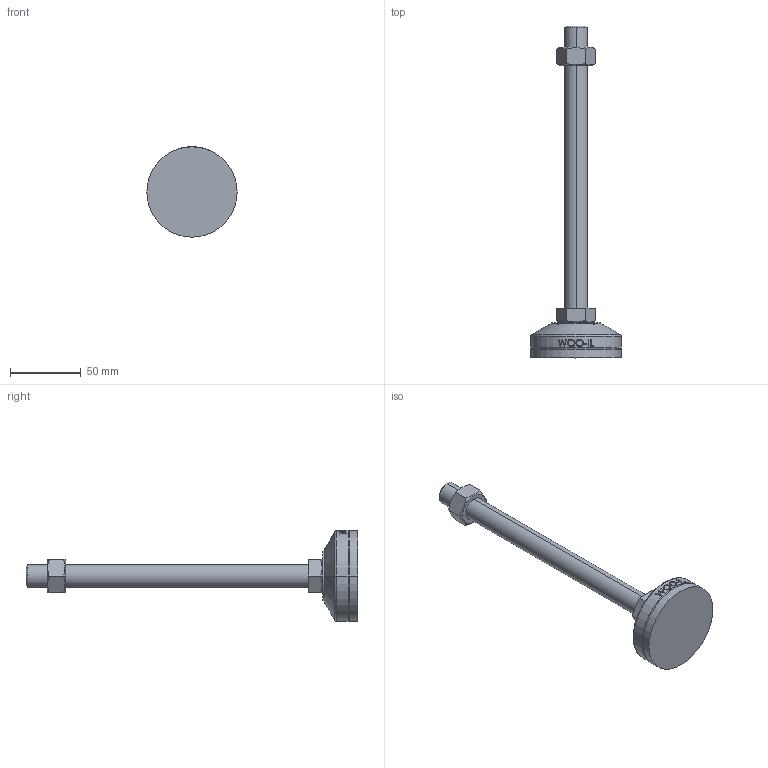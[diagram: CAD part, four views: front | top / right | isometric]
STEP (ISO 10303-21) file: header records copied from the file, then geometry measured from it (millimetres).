
FILE_DESCRIPTION (( 'STEP AP214' ), '1' );
FILE_NAME ('MFR64-M16-200.step', '2021-01-13T05:36:55', ( '' ), ( '' ), 'SwSTEP 2.0', 'SolidWorks 2019', '' );
FILE_SCHEMA (( 'AUTOMOTIVE_DESIGN' ));
Length unit declared in the file: millimetre
Products named in the file (2): MFR64-M16-200
Bounding box: 64 x 235 x 64 mm (x, y, z)
Volume: 117691 mm3; surface area: 30470 mm2
Topology: 4 solids, 4 shells, 103 faces, 235 edges, 150 vertices
Faces by surface type: plane 49, cylinder 18, bspline 16, cone 14, torus 6
Entity records: 4393 total; most frequent: CARTESIAN_POINT 2120, ORIENTED_EDGE 470, DIRECTION 417, EDGE_CURVE 235, AXIS2_PLACEMENT_3D 159, VERTEX_POINT 150, EDGE_LOOP 115, FACE_OUTER_BOUND 103
